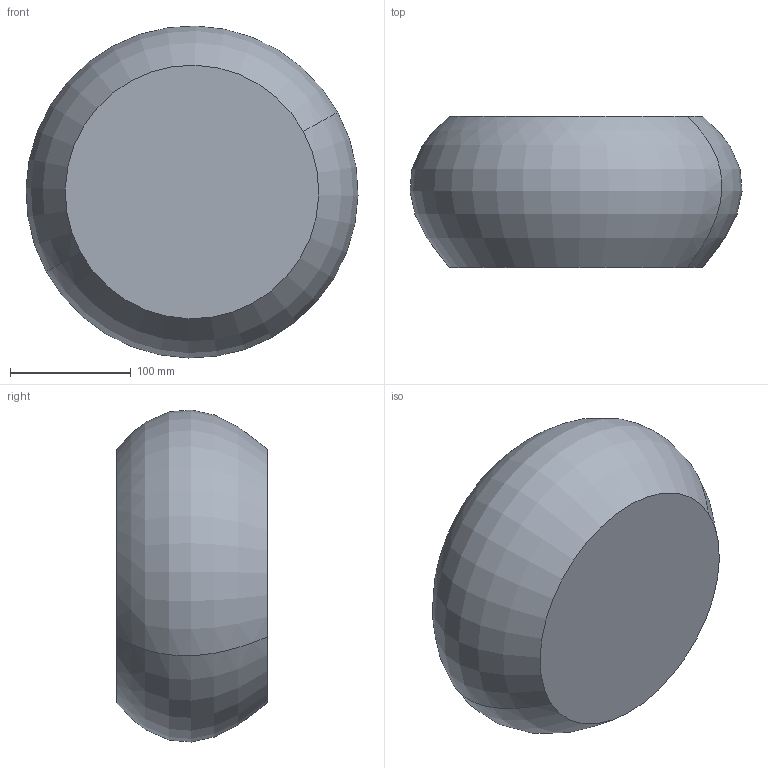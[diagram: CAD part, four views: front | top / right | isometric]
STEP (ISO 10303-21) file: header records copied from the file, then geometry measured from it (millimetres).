
FILE_DESCRIPTION(('CATIA V5 STEP Exchange'),'2;1');
FILE_NAME('C:\_Andres\UNIVERSIDAD\IQS\ASIGNATURAS\DAO\EXF\EXF-15161c\1original\Massaneda_Tuneu_Ej10-decora_v15.stp','2016-03-04T22:24:13+00:00',('none'),('none'),'CATIA Version 5 Release 20 SP 1 (IN-10)','CATIA V5 STEP AP203','none');
FILE_SCHEMA(('CONFIG_CONTROL_DESIGN'));
Length unit declared in the file: millimetre
Products named in the file (1): Massaneda_Tuneu_Ej10-decora_v15
Bounding box: 274.97 x 125 x 274.97 mm (x, y, z)
Volume: 6349935.3 mm3; surface area: 183871.6 mm2
Topology: 1 solids, 1 shells, 4 faces, 6 edges, 4 vertices
Faces by surface type: revolution 2, plane 2
Entity records: 166 total; most frequent: CARTESIAN_POINT 50, DIRECTION 12, ORIENTED_EDGE 12, AXIS2_PLACEMENT_3D 8, EDGE_CURVE 6, ADVANCED_FACE 4, B_SPLINE_CURVE_WITH_KNOTS 4, CC_DESIGN_PERSON_AND_ORGANIZATION_ASSIGNMENT 4
